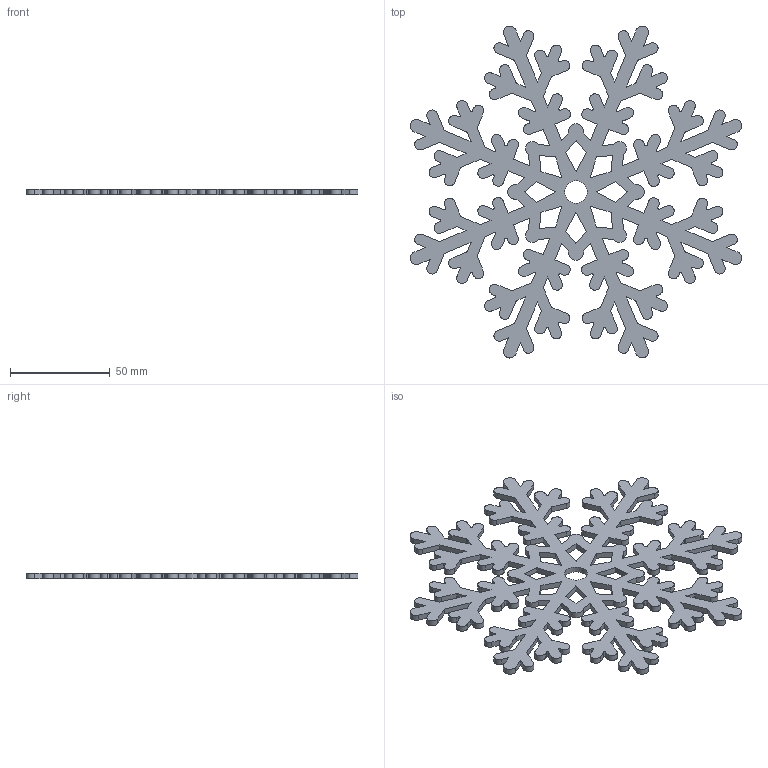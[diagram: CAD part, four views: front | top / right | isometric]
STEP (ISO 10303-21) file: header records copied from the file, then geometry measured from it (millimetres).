
FILE_DESCRIPTION(('STEP AP214'),'1');
FILE_NAME('1.stp','2026-07-01T23:18:10',(' '),(' '),'Spatial InterOp 3D',' ',' ');
FILE_SCHEMA(('AUTOMOTIVE_DESIGN { 1 0 10303 214 1 1 1 1 }'));
Length unit declared in the file: metre
Products named in the file (1): 1782947736
Bounding box: 166.78 x 166.78 x 3 mm (x, y, z)
Volume: 32712.6 mm3; surface area: 31515.2 mm2
Topology: 1 solids, 1 shells, 531 faces, 1587 edges, 1058 vertices
Faces by surface type: plane 338, cylinder 193
Full cylindrical faces by diameter (mm): 11.28 x1
Entity records: 29611 total; most frequent: CARTESIAN_POINT 3176, ORIENTED_EDGE 3172, DIRECTION 3036, STYLED_ITEM 2020, PRESENTATION_STYLE_ASSIGNMENT 2020, COLOUR_RGB 2020, EDGE_CURVE 1586, CURVE_STYLE 1488
